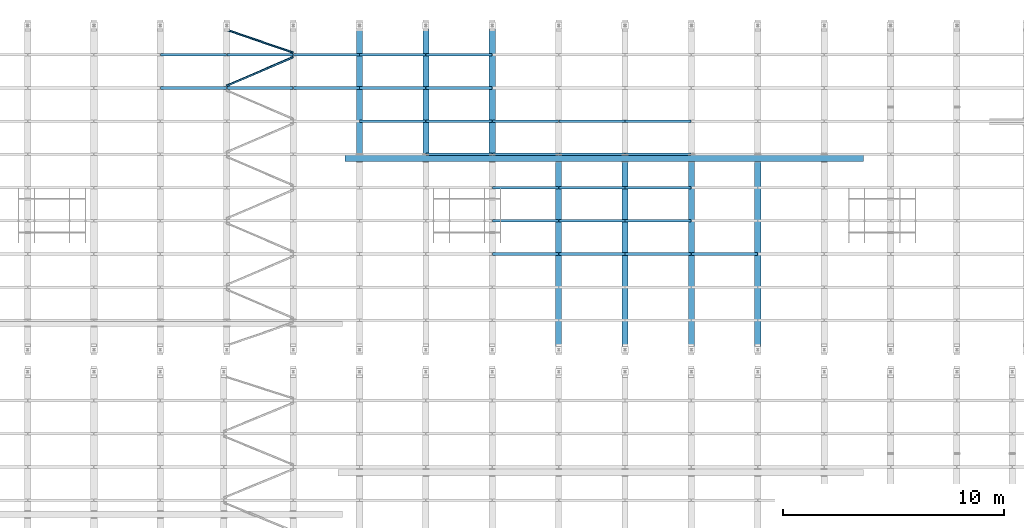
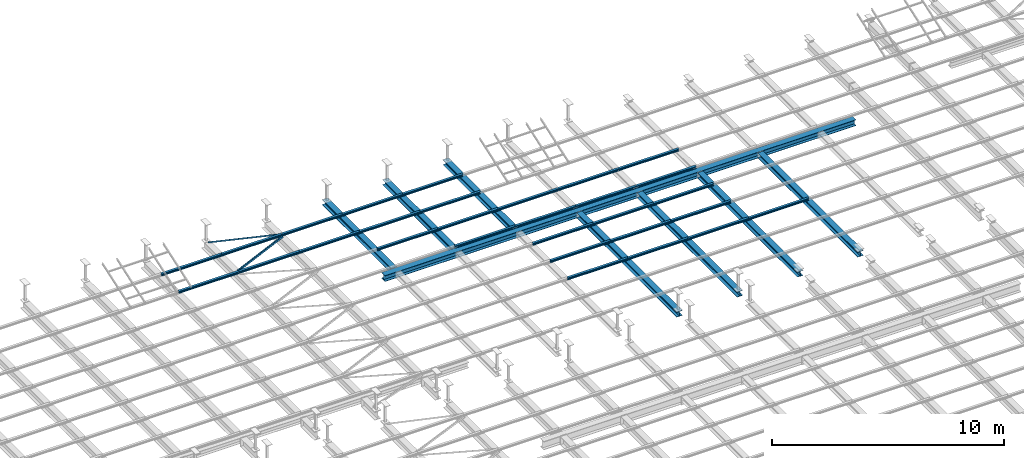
# One storey, part 81 of 139: 39 beams.
"""IFC2X3 building model written with IfcOpenShell, lengths in metres."""

from ifc_helpers import new_model, entity, si_unit, converted_unit, derived_unit, frame, origin, place, context, subcontext, project, spatial, polyline, outline, extrude, material, element, save


model = new_model("IFC2X3")

# Units and contexts
model_context = context("Model", 3, precision=1e-05, world=origin())
body_context = subcontext(model_context, "Body", "Model", "MODEL_VIEW")
ifc_project = project(units=[si_unit("LENGTHUNIT", "METRE"), si_unit("AREAUNIT", "SQUARE_METRE"), si_unit("VOLUMEUNIT", "CUBIC_METRE"), si_unit("MASSUNIT", "GRAM", prefix="KILO"), converted_unit("PLANEANGLEUNIT", "DEGREE", entity("IfcPlaneAngleMeasure", 0.0174532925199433), si_unit("PLANEANGLEUNIT", "RADIAN"), dimensions=[0, 0, 0, 0, 0, 0, 0]), derived_unit("THERMALTRANSMITTANCEUNIT", [(si_unit("POWERUNIT", "WATT"), 1), (si_unit("THERMODYNAMICTEMPERATUREUNIT", "KELVIN"), -1), (si_unit("LENGTHUNIT", "METRE"), -2)]), derived_unit("VOLUMETRICFLOWRATEUNIT", [(si_unit("LENGTHUNIT", "METRE"), 3), (converted_unit("TIMEUNIT", "hour", entity("IfcTimeMeasure", 3600.0), si_unit("TIMEUNIT", "SECOND"), dimensions=[0, 0, 1, 0, 0, 0, 0]), -1), (si_unit("LENGTHUNIT", "METRE"), -1)])], contexts=[model_context])

# Site, building, storey
site_placement = place(None, origin())
site = spatial("IfcSite", under=ifc_project, at=site_placement, Name="TWP_Speiseverteilzentrum SBW VZ II", CompositionType="ELEMENT")
building_placement = place(site_placement, origin())
building = spatial("IfcBuilding", under=site, at=building_placement, Name="Speiseverteilzentrum SBW VZ II", CompositionType="ELEMENT")
storey_placement = place(building_placement, frame((0.0, 0.0, 7.1307)))
storey = spatial("IfcBuildingStorey", under=building, at=storey_placement, Name="Wartung_FFB", CompositionType="ELEMENT", Elevation=7.1307)

# Beams
ifc_material_1 = material(Name="S235")
beam_1_placement = place(storey_placement, frame((51.3996040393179, 79.547433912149, -0.345), z_axis=(0.0, 0.0, 1.0), x_axis=(-1.22464679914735e-16, -1.0, 0.0)))
element("IfcBeam", 1, at=beam_1_placement, inside=storey, material=ifc_material_1, Name="Stahlträger", context=body_context, shape_type="SweptSolid", body=[
    extrude(outline(polyline([(-0.15, 0.155), (-0.15, 0.1395), (-0.00449999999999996, 0.1395), (-0.00449999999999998, -0.1395), (-0.15, -0.1395), (-0.15, -0.155), (0.15, -0.155), (0.15, -0.1395), (0.00450000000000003, -0.1395), (0.00450000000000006, 0.1395), (0.15, 0.1395), (0.15, 0.155), (-0.15, 0.155)])), frame((0.0, 0.0, 0.0), z_axis=(0.0, 1.0, 0.0), x_axis=(-1.0, 0.0, 0.0)), (0.0, 0.0, 1.0), 23.4247751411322),
])
ifc_material_2 = material(Name="S235")
beam_2_placement = place(storey_placement, frame((52.0500000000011, 85.7000000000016, -0.325), z_axis=(0.0, 0.0, 1.0), x_axis=(-1.0, 0.0, 0.0)))
element("IfcBeam", 2, at=beam_2_placement, inside=storey, material=ifc_material_2, Name="Stahlträger", context=body_context, shape_type="SweptSolid", body=[
    extrude(outline(polyline([(-0.14, 0.135), (-0.14, 0.122), (-0.00400000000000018, 0.122), (-0.00400000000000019, -0.122), (-0.14, -0.122), (-0.14, -0.135), (0.14, -0.135), (0.14, -0.122), (0.00399999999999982, -0.122), (0.00399999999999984, 0.122), (0.14, 0.122), (0.14, 0.135), (-0.14, 0.135)])), frame((0.0, 0.0, 0.0), z_axis=(0.0, 1.0, 0.0), x_axis=(-1.0, 0.0, 0.0)), (0.0, 0.0, 1.0), 5.97756608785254),
])
ifc_material_3 = material(Name="S235")
beam_3_placement = place(storey_placement, frame((55.0500000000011, 85.7000000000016, -0.325), z_axis=(0.0, 0.0, 1.0), x_axis=(-1.0, 0.0, 0.0)))
element("IfcBeam", 3, at=beam_3_placement, inside=storey, material=ifc_material_3, Name="Stahlträger", context=body_context, shape_type="SweptSolid", body=[
    extrude(outline(polyline([(-0.14, 0.135), (-0.14, 0.122), (-0.00400000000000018, 0.122), (-0.00400000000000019, -0.122), (-0.14, -0.122), (-0.14, -0.135), (0.14, -0.135), (0.14, -0.122), (0.00399999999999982, -0.122), (0.00399999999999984, 0.122), (0.14, 0.122), (0.14, 0.135), (-0.14, 0.135)])), frame((0.0, 0.0, 0.0), z_axis=(0.0, 1.0, 0.0), x_axis=(-1.0, 0.0, 0.0)), (0.0, 0.0, 1.0), 5.97756608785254),
])
ifc_material_4 = material(Name="S235")
beam_4_placement = place(storey_placement, frame((58.0500000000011, 85.7000000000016, -0.325), z_axis=(0.0, 0.0, 1.0), x_axis=(-1.0, 0.0, 0.0)))
element("IfcBeam", 4, at=beam_4_placement, inside=storey, material=ifc_material_4, Name="Stahlträger", context=body_context, shape_type="SweptSolid", body=[
    extrude(outline(polyline([(-0.14, 0.135), (-0.14, 0.122), (-0.00400000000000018, 0.122), (-0.00400000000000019, -0.122), (-0.14, -0.122), (-0.14, -0.135), (0.14, -0.135), (0.14, -0.122), (0.00399999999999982, -0.122), (0.00399999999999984, 0.122), (0.14, 0.122), (0.14, 0.135), (-0.14, 0.135)])), frame((0.0, 0.0, 0.0), z_axis=(0.0, 1.0, 0.0), x_axis=(-1.0, 0.0, 0.0)), (0.0, 0.0, 1.0), 5.97756608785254),
])
ifc_material_5 = material(Name="S235")
beam_5_placement = place(storey_placement, frame((61.0500000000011, 79.372433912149, -0.325), z_axis=(0.0, 0.0, 1.0), x_axis=(-1.0, 0.0, 0.0)))
element("IfcBeam", 5, at=beam_5_placement, inside=storey, material=ifc_material_5, Name="Stahlträger", context=body_context, shape_type="SweptSolid", body=[
    extrude(outline(polyline([(-0.14, 0.135), (-0.14, 0.122), (-0.00400000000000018, 0.122), (-0.00400000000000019, -0.122), (-0.14, -0.122), (-0.14, -0.135), (0.14, -0.135), (0.14, -0.122), (0.00399999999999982, -0.122), (0.00399999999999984, 0.122), (0.14, 0.122), (0.14, 0.135), (-0.14, 0.135)])), frame((0.0, 0.0, 0.0), z_axis=(0.0, 1.0, 0.0), x_axis=(-1.0, 0.0, 0.0)), (0.0, 0.0, 1.0), 8.62018125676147),
])
ifc_material_6 = material(Name="S235")
beam_6_placement = place(storey_placement, frame((64.0500000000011, 79.372433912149, -0.325), z_axis=(0.0, 0.0, 1.0), x_axis=(-1.0, 0.0, 0.0)))
element("IfcBeam", 6, at=beam_6_placement, inside=storey, material=ifc_material_6, Name="Stahlträger", context=body_context, shape_type="SweptSolid", body=[
    extrude(outline(polyline([(-0.14, 0.135), (-0.14, 0.122), (-0.00400000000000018, 0.122), (-0.00400000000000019, -0.122), (-0.14, -0.122), (-0.14, -0.135), (0.14, -0.135), (0.14, -0.122), (0.00399999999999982, -0.122), (0.00399999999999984, 0.122), (0.14, 0.122), (0.14, 0.135), (-0.14, 0.135)])), frame((0.0, 0.0, 0.0), z_axis=(0.0, 1.0, 0.0), x_axis=(-1.0, 0.0, 0.0)), (0.0, 0.0, 1.0), 8.62018125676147),
])
ifc_material_7 = material(Name="S235")
beam_7_placement = place(storey_placement, frame((67.0500000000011, 79.372433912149, -0.325), z_axis=(0.0, 0.0, 1.0), x_axis=(-1.0, 0.0, 0.0)))
element("IfcBeam", 7, at=beam_7_placement, inside=storey, material=ifc_material_7, Name="Stahlträger", context=body_context, shape_type="SweptSolid", body=[
    extrude(outline(polyline([(-0.14, 0.135), (-0.14, 0.122), (-0.00400000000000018, 0.122), (-0.00400000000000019, -0.122), (-0.14, -0.122), (-0.14, -0.135), (0.14, -0.135), (0.14, -0.122), (0.00399999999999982, -0.122), (0.00399999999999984, 0.122), (0.14, 0.122), (0.14, 0.135), (-0.14, 0.135)])), frame((0.0, 0.0, 0.0), z_axis=(0.0, 1.0, 0.0), x_axis=(-1.0, 0.0, 0.0)), (0.0, 0.0, 1.0), 8.62018125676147),
])
ifc_material_8 = material(Name="S235")
beam_8_placement = place(storey_placement, frame((70.0500000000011, 79.372433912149, -0.325), z_axis=(0.0, 0.0, 1.0), x_axis=(-1.0, 0.0, 0.0)))
element("IfcBeam", 8, at=beam_8_placement, inside=storey, material=ifc_material_8, Name="Stahlträger", context=body_context, shape_type="SweptSolid", body=[
    extrude(outline(polyline([(-0.14, 0.135), (-0.14, 0.122), (-0.00400000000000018, 0.122), (-0.00400000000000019, -0.122), (-0.14, -0.122), (-0.14, -0.135), (0.14, -0.135), (0.14, -0.122), (0.00399999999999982, -0.122), (0.00399999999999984, 0.122), (0.14, 0.122), (0.14, 0.135), (-0.14, 0.135)])), frame((0.0, 0.0, 0.0), z_axis=(0.0, 1.0, 0.0), x_axis=(-1.0, 0.0, 0.0)), (0.0, 0.0, 1.0), 8.62018125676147),
])
ifc_material_9 = material(Name="S235")
beam_9_placement = place(storey_placement, frame((43.0600000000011, 84.2261263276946, -0.133), z_axis=(0.0, 0.0, 1.0), x_axis=(0.0, -1.0, 0.0)))
element("IfcBeam", 9, at=beam_9_placement, inside=storey, material=ifc_material_9, Name="Nebenträger", context=body_context, shape_type="SweptSolid", body=[
    extrude(outline(polyline([(-0.06, 0.0570000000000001), (-0.06, 0.0490000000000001), (-0.00249999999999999, 0.0490000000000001), (-0.0025, -0.0489999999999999), (-0.06, -0.0489999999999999), (-0.06, -0.0569999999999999), (0.06, -0.0569999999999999), (0.06, -0.0489999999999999), (0.0025, -0.0489999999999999), (0.00250000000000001, 0.0490000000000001), (0.06, 0.0490000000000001), (0.06, 0.0570000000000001), (-0.06, 0.0570000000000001)])), frame((0.0, 0.0, 0.0), z_axis=(0.0, 1.0, 0.0), x_axis=(-1.0, 0.0, 0.0)), (0.0, 0.0, 1.0), 2.98),
])
ifc_material_10 = material(Name="S235")
beam_10_placement = place(storey_placement, frame((46.0600000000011, 84.2261263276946, -0.133), z_axis=(0.0, 0.0, 1.0), x_axis=(0.0, -1.0, 0.0)))
element("IfcBeam", 10, at=beam_10_placement, inside=storey, material=ifc_material_10, Name="Nebenträger", context=body_context, shape_type="SweptSolid", body=[
    extrude(outline(polyline([(-0.06, 0.0570000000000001), (-0.06, 0.0490000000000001), (-0.00249999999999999, 0.0490000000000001), (-0.0025, -0.0489999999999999), (-0.06, -0.0489999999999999), (-0.06, -0.0569999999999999), (0.06, -0.0569999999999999), (0.06, -0.0489999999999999), (0.0025, -0.0489999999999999), (0.00250000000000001, 0.0490000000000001), (0.06, 0.0490000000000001), (0.06, 0.0570000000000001), (-0.06, 0.0570000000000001)])), frame((0.0, 0.0, 0.0), z_axis=(0.0, 1.0, 0.0), x_axis=(-1.0, 0.0, 0.0)), (0.0, 0.0, 1.0), 2.98),
])
ifc_material_11 = material(Name="S235")
beam_11_placement = place(storey_placement, frame((49.0600000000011, 84.2261263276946, -0.133), z_axis=(0.0, 0.0, 1.0), x_axis=(0.0, -1.0, 0.0)))
element("IfcBeam", 11, at=beam_11_placement, inside=storey, material=ifc_material_11, Name="Nebenträger", context=body_context, shape_type="SweptSolid", body=[
    extrude(outline(polyline([(-0.06, 0.0570000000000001), (-0.06, 0.0490000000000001), (-0.00249999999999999, 0.0490000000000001), (-0.0025, -0.0489999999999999), (-0.06, -0.0489999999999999), (-0.06, -0.0569999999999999), (0.06, -0.0569999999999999), (0.06, -0.0489999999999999), (0.0025, -0.0489999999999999), (0.00250000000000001, 0.0490000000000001), (0.06, 0.0490000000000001), (0.06, 0.0570000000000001), (-0.06, 0.0570000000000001)])), frame((0.0, 0.0, 0.0), z_axis=(0.0, 1.0, 0.0), x_axis=(-1.0, 0.0, 0.0)), (0.0, 0.0, 1.0), 2.98),
])
ifc_material_12 = material(Name="S235")
beam_12_placement = place(storey_placement, frame((52.0600000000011, 84.2261263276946, -0.133), z_axis=(0.0, 0.0, 1.0), x_axis=(0.0, -1.0, 0.0)))
element("IfcBeam", 12, at=beam_12_placement, inside=storey, material=ifc_material_12, Name="Nebenträger", context=body_context, shape_type="SweptSolid", body=[
    extrude(outline(polyline([(-0.06, 0.0570000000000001), (-0.06, 0.0490000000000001), (-0.00249999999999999, 0.0490000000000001), (-0.0025, -0.0489999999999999), (-0.06, -0.0489999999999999), (-0.06, -0.0569999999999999), (0.06, -0.0569999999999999), (0.06, -0.0489999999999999), (0.0025, -0.0489999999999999), (0.00250000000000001, 0.0490000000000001), (0.06, 0.0490000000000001), (0.06, 0.0570000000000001), (-0.06, 0.0570000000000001)])), frame((0.0, 0.0, 0.0), z_axis=(0.0, 1.0, 0.0), x_axis=(-1.0, 0.0, 0.0)), (0.0, 0.0, 1.0), 2.98),
])
ifc_material_13 = material(Name="S235")
beam_13_placement = place(storey_placement, frame((55.0600000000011, 84.2261263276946, -0.133), z_axis=(0.0, 0.0, 1.0), x_axis=(0.0, -1.0, 0.0)))
element("IfcBeam", 13, at=beam_13_placement, inside=storey, material=ifc_material_13, Name="Nebenträger", context=body_context, shape_type="SweptSolid", body=[
    extrude(outline(polyline([(-0.06, 0.0570000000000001), (-0.06, 0.0490000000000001), (-0.00249999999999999, 0.0490000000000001), (-0.0025, -0.0489999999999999), (-0.06, -0.0489999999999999), (-0.06, -0.0569999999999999), (0.06, -0.0569999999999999), (0.06, -0.0489999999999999), (0.0025, -0.0489999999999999), (0.00250000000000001, 0.0490000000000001), (0.06, 0.0490000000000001), (0.06, 0.0570000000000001), (-0.06, 0.0570000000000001)])), frame((0.0, 0.0, 0.0), z_axis=(0.0, 1.0, 0.0), x_axis=(-1.0, 0.0, 0.0)), (0.0, 0.0, 1.0), 2.98),
])
ifc_material_14 = material(Name="S235")
beam_14_placement = place(storey_placement, frame((43.0600000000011, 82.7261263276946, -0.133), z_axis=(0.0, 0.0, 1.0), x_axis=(0.0, -1.0, 0.0)))
element("IfcBeam", 14, at=beam_14_placement, inside=storey, material=ifc_material_14, Name="Nebenträger", context=body_context, shape_type="SweptSolid", body=[
    extrude(outline(polyline([(-0.06, 0.0570000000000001), (-0.06, 0.0490000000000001), (-0.00249999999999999, 0.0490000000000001), (-0.0025, -0.0489999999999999), (-0.06, -0.0489999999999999), (-0.06, -0.0569999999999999), (0.06, -0.0569999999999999), (0.06, -0.0489999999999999), (0.0025, -0.0489999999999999), (0.00250000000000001, 0.0490000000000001), (0.06, 0.0490000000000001), (0.06, 0.0570000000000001), (-0.06, 0.0570000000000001)])), frame((0.0, 0.0, 0.0), z_axis=(0.0, 1.0, 0.0), x_axis=(-1.0, 0.0, 0.0)), (0.0, 0.0, 1.0), 2.98),
])
ifc_material_15 = material(Name="S235")
beam_15_placement = place(storey_placement, frame((46.0600000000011, 82.7261263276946, -0.133), z_axis=(0.0, 0.0, 1.0), x_axis=(0.0, -1.0, 0.0)))
element("IfcBeam", 15, at=beam_15_placement, inside=storey, material=ifc_material_15, Name="Nebenträger", context=body_context, shape_type="SweptSolid", body=[
    extrude(outline(polyline([(-0.06, 0.0570000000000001), (-0.06, 0.0490000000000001), (-0.00249999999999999, 0.0490000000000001), (-0.0025, -0.0489999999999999), (-0.06, -0.0489999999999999), (-0.06, -0.0569999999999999), (0.06, -0.0569999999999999), (0.06, -0.0489999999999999), (0.0025, -0.0489999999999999), (0.00250000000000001, 0.0490000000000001), (0.06, 0.0490000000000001), (0.06, 0.0570000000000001), (-0.06, 0.0570000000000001)])), frame((0.0, 0.0, 0.0), z_axis=(0.0, 1.0, 0.0), x_axis=(-1.0, 0.0, 0.0)), (0.0, 0.0, 1.0), 2.98),
])
ifc_material_16 = material(Name="S235")
beam_16_placement = place(storey_placement, frame((49.0600000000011, 82.7261263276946, -0.133), z_axis=(0.0, 0.0, 1.0), x_axis=(0.0, -1.0, 0.0)))
element("IfcBeam", 16, at=beam_16_placement, inside=storey, material=ifc_material_16, Name="Nebenträger", context=body_context, shape_type="SweptSolid", body=[
    extrude(outline(polyline([(-0.06, 0.0570000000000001), (-0.06, 0.0490000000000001), (-0.00249999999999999, 0.0490000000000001), (-0.0025, -0.0489999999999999), (-0.06, -0.0489999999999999), (-0.06, -0.0569999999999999), (0.06, -0.0569999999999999), (0.06, -0.0489999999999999), (0.0025, -0.0489999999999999), (0.00250000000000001, 0.0490000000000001), (0.06, 0.0490000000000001), (0.06, 0.0570000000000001), (-0.06, 0.0570000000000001)])), frame((0.0, 0.0, 0.0), z_axis=(0.0, 1.0, 0.0), x_axis=(-1.0, 0.0, 0.0)), (0.0, 0.0, 1.0), 2.98),
])
ifc_material_17 = material(Name="S235")
beam_17_placement = place(storey_placement, frame((52.0600000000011, 82.7261263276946, -0.133), z_axis=(0.0, 0.0, 1.0), x_axis=(0.0, -1.0, 0.0)))
element("IfcBeam", 17, at=beam_17_placement, inside=storey, material=ifc_material_17, Name="Nebenträger", context=body_context, shape_type="SweptSolid", body=[
    extrude(outline(polyline([(-0.06, 0.0570000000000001), (-0.06, 0.0490000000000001), (-0.00249999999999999, 0.0490000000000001), (-0.0025, -0.0489999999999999), (-0.06, -0.0489999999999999), (-0.06, -0.0569999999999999), (0.06, -0.0569999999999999), (0.06, -0.0489999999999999), (0.0025, -0.0489999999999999), (0.00250000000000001, 0.0490000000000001), (0.06, 0.0490000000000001), (0.06, 0.0570000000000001), (-0.06, 0.0570000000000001)])), frame((0.0, 0.0, 0.0), z_axis=(0.0, 1.0, 0.0), x_axis=(-1.0, 0.0, 0.0)), (0.0, 0.0, 1.0), 2.98),
])
ifc_material_18 = material(Name="S235")
beam_18_placement = place(storey_placement, frame((55.0600000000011, 82.7261263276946, -0.133), z_axis=(0.0, 0.0, 1.0), x_axis=(0.0, -1.0, 0.0)))
element("IfcBeam", 18, at=beam_18_placement, inside=storey, material=ifc_material_18, Name="Nebenträger", context=body_context, shape_type="SweptSolid", body=[
    extrude(outline(polyline([(-0.06, 0.0570000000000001), (-0.06, 0.0490000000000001), (-0.00249999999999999, 0.0490000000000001), (-0.0025, -0.0489999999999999), (-0.06, -0.0489999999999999), (-0.06, -0.0569999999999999), (0.06, -0.0569999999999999), (0.06, -0.0489999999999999), (0.0025, -0.0489999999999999), (0.00250000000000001, 0.0490000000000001), (0.06, 0.0490000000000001), (0.06, 0.0570000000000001), (-0.06, 0.0570000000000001)])), frame((0.0, 0.0, 0.0), z_axis=(0.0, 1.0, 0.0), x_axis=(-1.0, 0.0, 0.0)), (0.0, 0.0, 1.0), 2.98),
])
ifc_material_19 = material(Name="S235")
beam_19_placement = place(storey_placement, frame((64.0600000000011, 81.2261263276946, -0.133), z_axis=(0.0, 0.0, 1.0), x_axis=(0.0, -1.0, 0.0)))
element("IfcBeam", 19, at=beam_19_placement, inside=storey, material=ifc_material_19, Name="Nebenträger", context=body_context, shape_type="SweptSolid", body=[
    extrude(outline(polyline([(-0.06, 0.0570000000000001), (-0.06, 0.0490000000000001), (-0.00249999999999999, 0.0490000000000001), (-0.0025, -0.0489999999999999), (-0.06, -0.0489999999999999), (-0.06, -0.0569999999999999), (0.06, -0.0569999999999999), (0.06, -0.0489999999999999), (0.0025, -0.0489999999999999), (0.00250000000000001, 0.0490000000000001), (0.06, 0.0490000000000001), (0.06, 0.0570000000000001), (-0.06, 0.0570000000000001)])), frame((0.0, 0.0, 0.0), z_axis=(0.0, 1.0, 0.0), x_axis=(-1.0, 0.0, 0.0)), (0.0, 0.0, 1.0), 2.98000000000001),
])
ifc_material_20 = material(Name="S235")
beam_20_placement = place(storey_placement, frame((52.0600000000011, 81.2261263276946, -0.133), z_axis=(0.0, 0.0, 1.0), x_axis=(0.0, -1.0, 0.0)))
element("IfcBeam", 20, at=beam_20_placement, inside=storey, material=ifc_material_20, Name="Nebenträger", context=body_context, shape_type="SweptSolid", body=[
    extrude(outline(polyline([(-0.06, 0.0570000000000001), (-0.06, 0.0490000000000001), (-0.00249999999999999, 0.0490000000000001), (-0.0025, -0.0489999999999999), (-0.06, -0.0489999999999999), (-0.06, -0.0569999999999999), (0.06, -0.0569999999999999), (0.06, -0.0489999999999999), (0.0025, -0.0489999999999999), (0.00250000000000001, 0.0490000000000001), (0.06, 0.0490000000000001), (0.06, 0.0570000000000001), (-0.06, 0.0570000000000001)])), frame((0.0, 0.0, 0.0), z_axis=(0.0, 1.0, 0.0), x_axis=(-1.0, 0.0, 0.0)), (0.0, 0.0, 1.0), 2.98),
])
ifc_material_21 = material(Name="S235")
beam_21_placement = place(storey_placement, frame((55.0600000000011, 81.2261263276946, -0.133), z_axis=(0.0, 0.0, 1.0), x_axis=(0.0, -1.0, 0.0)))
element("IfcBeam", 21, at=beam_21_placement, inside=storey, material=ifc_material_21, Name="Nebenträger", context=body_context, shape_type="SweptSolid", body=[
    extrude(outline(polyline([(-0.06, 0.0570000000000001), (-0.06, 0.0490000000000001), (-0.00249999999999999, 0.0490000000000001), (-0.0025, -0.0489999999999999), (-0.06, -0.0489999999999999), (-0.06, -0.0569999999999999), (0.06, -0.0569999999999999), (0.06, -0.0489999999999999), (0.0025, -0.0489999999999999), (0.00250000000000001, 0.0490000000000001), (0.06, 0.0490000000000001), (0.06, 0.0570000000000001), (-0.06, 0.0570000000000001)])), frame((0.0, 0.0, 0.0), z_axis=(0.0, 1.0, 0.0), x_axis=(-1.0, 0.0, 0.0)), (0.0, 0.0, 1.0), 2.98),
])
ifc_material_22 = material(Name="S235")
beam_22_placement = place(storey_placement, frame((58.0600000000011, 81.2261263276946, -0.133), z_axis=(0.0, 0.0, 1.0), x_axis=(0.0, -1.0, 0.0)))
element("IfcBeam", 22, at=beam_22_placement, inside=storey, material=ifc_material_22, Name="Nebenträger", context=body_context, shape_type="SweptSolid", body=[
    extrude(outline(polyline([(-0.06, 0.0570000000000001), (-0.06, 0.0490000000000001), (-0.00249999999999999, 0.0490000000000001), (-0.0025, -0.0489999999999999), (-0.06, -0.0489999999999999), (-0.06, -0.0569999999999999), (0.06, -0.0569999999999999), (0.06, -0.0489999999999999), (0.0025, -0.0489999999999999), (0.00250000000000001, 0.0490000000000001), (0.06, 0.0490000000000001), (0.06, 0.0570000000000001), (-0.06, 0.0570000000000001)])), frame((0.0, 0.0, 0.0), z_axis=(0.0, 1.0, 0.0), x_axis=(-1.0, 0.0, 0.0)), (0.0, 0.0, 1.0), 2.98),
])
ifc_material_23 = material(Name="S235")
beam_23_placement = place(storey_placement, frame((61.0600000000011, 81.2261263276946, -0.133), z_axis=(0.0, 0.0, 1.0), x_axis=(0.0, -1.0, 0.0)))
element("IfcBeam", 23, at=beam_23_placement, inside=storey, material=ifc_material_23, Name="Nebenträger", context=body_context, shape_type="SweptSolid", body=[
    extrude(outline(polyline([(-0.06, 0.0570000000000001), (-0.06, 0.0490000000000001), (-0.00249999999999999, 0.0490000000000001), (-0.0025, -0.0489999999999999), (-0.06, -0.0489999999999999), (-0.06, -0.0569999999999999), (0.06, -0.0569999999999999), (0.06, -0.0489999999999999), (0.0025, -0.0489999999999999), (0.00250000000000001, 0.0490000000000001), (0.06, 0.0490000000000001), (0.06, 0.0570000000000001), (-0.06, 0.0570000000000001)])), frame((0.0, 0.0, 0.0), z_axis=(0.0, 1.0, 0.0), x_axis=(-1.0, 0.0, 0.0)), (0.0, 0.0, 1.0), 2.98),
])
ifc_material_24 = material(Name="S235")
beam_24_placement = place(storey_placement, frame((64.0600000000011, 79.7261263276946, -0.133), z_axis=(0.0, 0.0, 1.0), x_axis=(0.0, -1.0, 0.0)))
element("IfcBeam", 24, at=beam_24_placement, inside=storey, material=ifc_material_24, Name="Nebenträger", context=body_context, shape_type="SweptSolid", body=[
    extrude(outline(polyline([(-0.06, 0.0570000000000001), (-0.06, 0.0490000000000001), (-0.00249999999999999, 0.0490000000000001), (-0.0025, -0.0489999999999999), (-0.06, -0.0489999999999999), (-0.06, -0.0569999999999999), (0.06, -0.0569999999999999), (0.06, -0.0489999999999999), (0.0025, -0.0489999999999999), (0.00250000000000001, 0.0490000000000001), (0.06, 0.0490000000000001), (0.06, 0.0570000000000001), (-0.06, 0.0570000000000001)])), frame((0.0, 0.0, 0.0), z_axis=(0.0, 1.0, 0.0), x_axis=(-1.0, 0.0, 0.0)), (0.0, 0.0, 1.0), 2.98000000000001),
])
ifc_material_25 = material(Name="S235")
beam_25_placement = place(storey_placement, frame((55.0600000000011, 79.7261263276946, -0.133), z_axis=(0.0, 0.0, 1.0), x_axis=(0.0, -1.0, 0.0)))
element("IfcBeam", 25, at=beam_25_placement, inside=storey, material=ifc_material_25, Name="Nebenträger", context=body_context, shape_type="SweptSolid", body=[
    extrude(outline(polyline([(-0.06, 0.0570000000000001), (-0.06, 0.0490000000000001), (-0.00249999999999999, 0.0490000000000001), (-0.0025, -0.0489999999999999), (-0.06, -0.0489999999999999), (-0.06, -0.0569999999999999), (0.06, -0.0569999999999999), (0.06, -0.0489999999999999), (0.0025, -0.0489999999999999), (0.00250000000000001, 0.0490000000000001), (0.06, 0.0490000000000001), (0.06, 0.0570000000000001), (-0.06, 0.0570000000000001)])), frame((0.0, 0.0, 0.0), z_axis=(0.0, 1.0, 0.0), x_axis=(-1.0, 0.0, 0.0)), (0.0, 0.0, 1.0), 2.98),
])
ifc_material_26 = material(Name="S235")
beam_26_placement = place(storey_placement, frame((58.0600000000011, 79.7261263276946, -0.133), z_axis=(0.0, 0.0, 1.0), x_axis=(0.0, -1.0, 0.0)))
element("IfcBeam", 26, at=beam_26_placement, inside=storey, material=ifc_material_26, Name="Nebenträger", context=body_context, shape_type="SweptSolid", body=[
    extrude(outline(polyline([(-0.06, 0.0570000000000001), (-0.06, 0.0490000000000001), (-0.00249999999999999, 0.0490000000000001), (-0.0025, -0.0489999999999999), (-0.06, -0.0489999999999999), (-0.06, -0.0569999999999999), (0.06, -0.0569999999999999), (0.06, -0.0489999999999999), (0.0025, -0.0489999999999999), (0.00250000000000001, 0.0490000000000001), (0.06, 0.0490000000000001), (0.06, 0.0570000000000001), (-0.06, 0.0570000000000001)])), frame((0.0, 0.0, 0.0), z_axis=(0.0, 1.0, 0.0), x_axis=(-1.0, 0.0, 0.0)), (0.0, 0.0, 1.0), 2.98),
])
ifc_material_27 = material(Name="S235")
beam_27_placement = place(storey_placement, frame((61.0600000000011, 79.7261263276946, -0.133), z_axis=(0.0, 0.0, 1.0), x_axis=(0.0, -1.0, 0.0)))
element("IfcBeam", 27, at=beam_27_placement, inside=storey, material=ifc_material_27, Name="Nebenträger", context=body_context, shape_type="SweptSolid", body=[
    extrude(outline(polyline([(-0.06, 0.0570000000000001), (-0.06, 0.0490000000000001), (-0.00249999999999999, 0.0490000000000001), (-0.0025, -0.0489999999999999), (-0.06, -0.0489999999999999), (-0.06, -0.0569999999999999), (0.06, -0.0569999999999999), (0.06, -0.0489999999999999), (0.0025, -0.0489999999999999), (0.00250000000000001, 0.0490000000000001), (0.06, 0.0490000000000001), (0.06, 0.0570000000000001), (-0.06, 0.0570000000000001)])), frame((0.0, 0.0, 0.0), z_axis=(0.0, 1.0, 0.0), x_axis=(-1.0, 0.0, 0.0)), (0.0, 0.0, 1.0), 2.98),
])
ifc_material_28 = material(Name="S235")
beam_28_placement = place(storey_placement, frame((64.0600000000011, 78.2261263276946, -0.133), z_axis=(0.0, 0.0, 1.0), x_axis=(0.0, -1.0, 0.0)))
element("IfcBeam", 28, at=beam_28_placement, inside=storey, material=ifc_material_28, Name="Nebenträger", context=body_context, shape_type="SweptSolid", body=[
    extrude(outline(polyline([(-0.06, 0.0570000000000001), (-0.06, 0.0490000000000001), (-0.00249999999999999, 0.0490000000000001), (-0.0025, -0.0489999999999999), (-0.06, -0.0489999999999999), (-0.06, -0.0569999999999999), (0.06, -0.0569999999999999), (0.06, -0.0489999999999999), (0.0025, -0.0489999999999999), (0.00250000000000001, 0.0490000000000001), (0.06, 0.0490000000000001), (0.06, 0.0570000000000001), (-0.06, 0.0570000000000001)])), frame((0.0, 0.0, 0.0), z_axis=(0.0, 1.0, 0.0), x_axis=(-1.0, 0.0, 0.0)), (0.0, 0.0, 1.0), 2.98000000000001),
])
ifc_material_29 = material(Name="S235")
beam_29_placement = place(storey_placement, frame((58.0600000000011, 78.2261263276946, -0.133), z_axis=(0.0, 0.0, 1.0), x_axis=(0.0, -1.0, 0.0)))
element("IfcBeam", 29, at=beam_29_placement, inside=storey, material=ifc_material_29, Name="Nebenträger", context=body_context, shape_type="SweptSolid", body=[
    extrude(outline(polyline([(-0.06, 0.0570000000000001), (-0.06, 0.0490000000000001), (-0.00249999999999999, 0.0490000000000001), (-0.0025, -0.0489999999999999), (-0.06, -0.0489999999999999), (-0.06, -0.0569999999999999), (0.06, -0.0569999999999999), (0.06, -0.0489999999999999), (0.0025, -0.0489999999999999), (0.00250000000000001, 0.0490000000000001), (0.06, 0.0490000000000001), (0.06, 0.0570000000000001), (-0.06, 0.0570000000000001)])), frame((0.0, 0.0, 0.0), z_axis=(0.0, 1.0, 0.0), x_axis=(-1.0, 0.0, 0.0)), (0.0, 0.0, 1.0), 2.98),
])
ifc_material_30 = material(Name="S235")
beam_30_placement = place(storey_placement, frame((61.0600000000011, 78.2261263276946, -0.133), z_axis=(0.0, 0.0, 1.0), x_axis=(0.0, -1.0, 0.0)))
element("IfcBeam", 30, at=beam_30_placement, inside=storey, material=ifc_material_30, Name="Nebenträger", context=body_context, shape_type="SweptSolid", body=[
    extrude(outline(polyline([(-0.06, 0.0570000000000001), (-0.06, 0.0490000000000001), (-0.00249999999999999, 0.0490000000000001), (-0.0025, -0.0489999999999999), (-0.06, -0.0489999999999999), (-0.06, -0.0569999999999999), (0.06, -0.0569999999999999), (0.06, -0.0489999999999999), (0.0025, -0.0489999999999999), (0.00250000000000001, 0.0490000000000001), (0.06, 0.0490000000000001), (0.06, 0.0570000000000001), (-0.06, 0.0570000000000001)])), frame((0.0, 0.0, 0.0), z_axis=(0.0, 1.0, 0.0), x_axis=(-1.0, 0.0, 0.0)), (0.0, 0.0, 1.0), 2.98),
])
ifc_material_31 = material(Name="S235")
beam_31_placement = place(storey_placement, frame((64.0600000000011, 76.7261263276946, -0.133), z_axis=(0.0, 0.0, 1.0), x_axis=(0.0, -1.0, 0.0)))
element("IfcBeam", 31, at=beam_31_placement, inside=storey, material=ifc_material_31, Name="Nebenträger", context=body_context, shape_type="SweptSolid", body=[
    extrude(outline(polyline([(-0.06, 0.0570000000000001), (-0.06, 0.0490000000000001), (-0.00249999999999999, 0.0490000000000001), (-0.0025, -0.0489999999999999), (-0.06, -0.0489999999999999), (-0.06, -0.0569999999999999), (0.06, -0.0569999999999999), (0.06, -0.0489999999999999), (0.0025, -0.0489999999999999), (0.00250000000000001, 0.0490000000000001), (0.06, 0.0490000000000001), (0.06, 0.0570000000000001), (-0.06, 0.0570000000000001)])), frame((0.0, 0.0, 0.0), z_axis=(0.0, 1.0, 0.0), x_axis=(-1.0, 0.0, 0.0)), (0.0, 0.0, 1.0), 2.98000000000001),
])
ifc_material_32 = material(Name="S235")
beam_32_placement = place(storey_placement, frame((58.0600000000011, 76.7261263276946, -0.133), z_axis=(0.0, 0.0, 1.0), x_axis=(0.0, -1.0, 0.0)))
element("IfcBeam", 32, at=beam_32_placement, inside=storey, material=ifc_material_32, Name="Nebenträger", context=body_context, shape_type="SweptSolid", body=[
    extrude(outline(polyline([(-0.06, 0.0570000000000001), (-0.06, 0.0490000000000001), (-0.00249999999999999, 0.0490000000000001), (-0.0025, -0.0489999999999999), (-0.06, -0.0489999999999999), (-0.06, -0.0569999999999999), (0.06, -0.0569999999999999), (0.06, -0.0489999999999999), (0.0025, -0.0489999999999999), (0.00250000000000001, 0.0490000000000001), (0.06, 0.0490000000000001), (0.06, 0.0570000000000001), (-0.06, 0.0570000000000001)])), frame((0.0, 0.0, 0.0), z_axis=(0.0, 1.0, 0.0), x_axis=(-1.0, 0.0, 0.0)), (0.0, 0.0, 1.0), 2.98),
])
ifc_material_33 = material(Name="S235")
beam_33_placement = place(storey_placement, frame((61.0600000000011, 76.7261263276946, -0.133), z_axis=(0.0, 0.0, 1.0), x_axis=(0.0, -1.0, 0.0)))
element("IfcBeam", 33, at=beam_33_placement, inside=storey, material=ifc_material_33, Name="Nebenträger", context=body_context, shape_type="SweptSolid", body=[
    extrude(outline(polyline([(-0.06, 0.0570000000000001), (-0.06, 0.0490000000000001), (-0.00249999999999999, 0.0490000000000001), (-0.0025, -0.0489999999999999), (-0.06, -0.0489999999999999), (-0.06, -0.0569999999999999), (0.06, -0.0569999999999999), (0.06, -0.0489999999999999), (0.0025, -0.0489999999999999), (0.00250000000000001, 0.0490000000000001), (0.06, 0.0490000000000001), (0.06, 0.0570000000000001), (-0.06, 0.0570000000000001)])), frame((0.0, 0.0, 0.0), z_axis=(0.0, 1.0, 0.0), x_axis=(-1.0, 0.0, 0.0)), (0.0, 0.0, 1.0), 2.98),
])
ifc_material_34 = material(Name="S235")
beam_34_placement = place(storey_placement, frame((64.0600000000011, 75.2261263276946, -0.133), z_axis=(0.0, 0.0, 1.0), x_axis=(0.0, -1.0, 0.0)))
element("IfcBeam", 34, at=beam_34_placement, inside=storey, material=ifc_material_34, Name="Nebenträger", context=body_context, shape_type="SweptSolid", body=[
    extrude(outline(polyline([(-0.06, 0.0570000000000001), (-0.06, 0.0490000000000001), (-0.00249999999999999, 0.0490000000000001), (-0.0025, -0.0489999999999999), (-0.06, -0.0489999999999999), (-0.06, -0.0569999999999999), (0.06, -0.0569999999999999), (0.06, -0.0489999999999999), (0.0025, -0.0489999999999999), (0.00250000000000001, 0.0490000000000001), (0.06, 0.0490000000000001), (0.06, 0.0570000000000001), (-0.06, 0.0570000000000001)])), frame((0.0, 0.0, 0.0), z_axis=(0.0, 1.0, 0.0), x_axis=(-1.0, 0.0, 0.0)), (0.0, 0.0, 1.0), 2.98000000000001),
])
ifc_material_35 = material(Name="S235")
beam_35_placement = place(storey_placement, frame((67.0600000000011, 75.2261263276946, -0.133), z_axis=(0.0, 0.0, 1.0), x_axis=(0.0, -1.0, 0.0)))
element("IfcBeam", 35, at=beam_35_placement, inside=storey, material=ifc_material_35, Name="Nebenträger", context=body_context, shape_type="SweptSolid", body=[
    extrude(outline(polyline([(-0.06, 0.0570000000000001), (-0.06, 0.0490000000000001), (-0.00249999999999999, 0.0490000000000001), (-0.0025, -0.0489999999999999), (-0.06, -0.0489999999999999), (-0.06, -0.0569999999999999), (0.06, -0.0569999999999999), (0.06, -0.0489999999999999), (0.0025, -0.0489999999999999), (0.00250000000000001, 0.0490000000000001), (0.06, 0.0490000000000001), (0.06, 0.0570000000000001), (-0.06, 0.0570000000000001)])), frame((0.0, 0.0, 0.0), z_axis=(0.0, 1.0, 0.0), x_axis=(-1.0, 0.0, 0.0)), (0.0, 0.0, 1.0), 2.98),
])
ifc_material_36 = material(Name="S235")
beam_36_placement = place(storey_placement, frame((58.0600000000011, 75.2261263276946, -0.133), z_axis=(0.0, 0.0, 1.0), x_axis=(0.0, -1.0, 0.0)))
element("IfcBeam", 36, at=beam_36_placement, inside=storey, material=ifc_material_36, Name="Nebenträger", context=body_context, shape_type="SweptSolid", body=[
    extrude(outline(polyline([(-0.06, 0.0570000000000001), (-0.06, 0.0490000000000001), (-0.00249999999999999, 0.0490000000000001), (-0.0025, -0.0489999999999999), (-0.06, -0.0489999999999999), (-0.06, -0.0569999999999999), (0.06, -0.0569999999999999), (0.06, -0.0489999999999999), (0.0025, -0.0489999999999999), (0.00250000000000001, 0.0490000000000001), (0.06, 0.0490000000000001), (0.06, 0.0570000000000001), (-0.06, 0.0570000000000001)])), frame((0.0, 0.0, 0.0), z_axis=(0.0, 1.0, 0.0), x_axis=(-1.0, 0.0, 0.0)), (0.0, 0.0, 1.0), 2.98),
])
ifc_material_37 = material(Name="S235")
beam_37_placement = place(storey_placement, frame((61.0600000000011, 75.2261263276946, -0.133), z_axis=(0.0, 0.0, 1.0), x_axis=(0.0, -1.0, 0.0)))
element("IfcBeam", 37, at=beam_37_placement, inside=storey, material=ifc_material_37, Name="Nebenträger", context=body_context, shape_type="SweptSolid", body=[
    extrude(outline(polyline([(-0.06, 0.0570000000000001), (-0.06, 0.0490000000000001), (-0.00249999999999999, 0.0490000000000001), (-0.0025, -0.0489999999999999), (-0.06, -0.0489999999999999), (-0.06, -0.0569999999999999), (0.06, -0.0569999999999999), (0.06, -0.0489999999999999), (0.0025, -0.0489999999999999), (0.00250000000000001, 0.0490000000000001), (0.06, 0.0490000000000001), (0.06, 0.0570000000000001), (-0.06, 0.0570000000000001)])), frame((0.0, 0.0, 0.0), z_axis=(0.0, 1.0, 0.0), x_axis=(-1.0, 0.0, 0.0)), (0.0, 0.0, 1.0), 2.98),
])
ifc_material_38 = material(Name="S235")
beam_38_placement = place(storey_placement, frame((46.0406913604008, 82.8445193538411, -0.167052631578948), z_axis=(0.0, 0.0, 1.0), x_axis=(0.395932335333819, -0.91827968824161, 0.0)))
element("IfcBeam", 38, at=beam_38_placement, inside=storey, material=ifc_material_38, Name="Kreuzverband", context=body_context, shape_type="SweptSolid", body=[
    extrude(outline(polyline([(0.0229473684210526, -0.0229473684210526), (0.0229473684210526, 0.0570526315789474), (0.0149473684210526, 0.0570526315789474), (0.0149473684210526, -0.0149473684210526), (-0.0570526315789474, -0.0149473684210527), (-0.0570526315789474, -0.0229473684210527), (0.0229473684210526, -0.0229473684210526)])), frame((0.0, 0.0, 0.0), z_axis=(0.0, 0.999999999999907, 0.0), x_axis=(-1.0, 0.0, 0.0)), (0.0, 0.0, 1.0), 3.27000000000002),
])
ifc_material_39 = material(Name="S235")
beam_39_placement = place(storey_placement, frame((46.0301937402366, 85.3424589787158, -0.167052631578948), z_axis=(0.0, 0.0, 1.0), x_axis=(-0.323264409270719, -0.946308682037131, 0.0)))
element("IfcBeam", 39, at=beam_39_placement, inside=storey, material=ifc_material_39, Name="Kreuzverband", context=body_context, shape_type="SweptSolid", body=[
    extrude(outline(polyline([(0.0570526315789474, -0.0229473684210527), (0.0570526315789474, -0.0149473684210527), (-0.0149473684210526, -0.0149473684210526), (-0.0149473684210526, 0.0570526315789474), (-0.0229473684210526, 0.0570526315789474), (-0.0229473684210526, -0.0229473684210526), (0.0570526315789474, -0.0229473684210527)])), frame((0.0, 0.0, 0.0), z_axis=(0.0, 1.00000000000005, 0.0), x_axis=(-1.0, 0.0, 0.0)), (0.0, 0.0, 1.0), 3.18247599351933),
])

save(model, "model.ifc")
